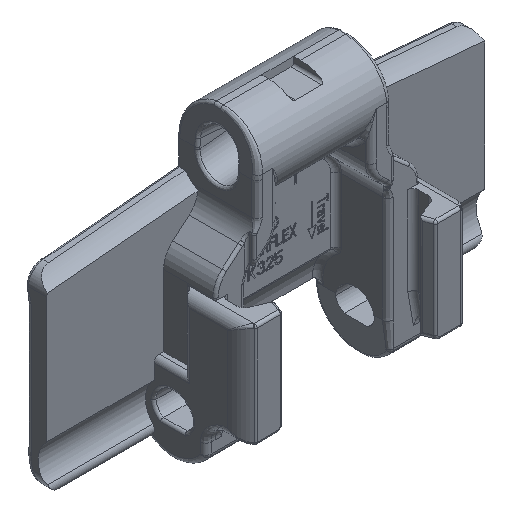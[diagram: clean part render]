
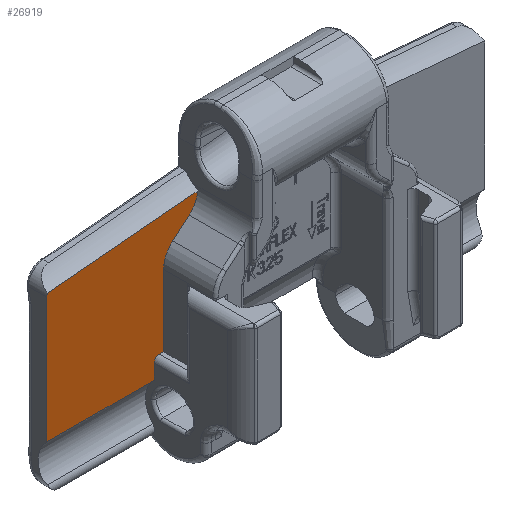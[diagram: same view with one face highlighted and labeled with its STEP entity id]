
A CAD part, isometric view. The second image highlights one B-rep face of the part: STEP entity #26919.
In plain terms, the highlighted planar face has unit normal (0, -1, 0).
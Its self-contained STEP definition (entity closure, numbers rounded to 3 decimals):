
#498=DIRECTION('',(0.,0.,-1.));
#499=VECTOR('',#498,2.741);
#500=CARTESIAN_POINT('',(-21.,3.521,-12.55));
#501=LINE('',#500,#499);
#1107=CARTESIAN_POINT('',(-38.15,3.521,8.301));
#1108=DIRECTION('',(0.,-1.,0.));
#1109=DIRECTION('',(-0.978,0.,0.208));
#1110=AXIS2_PLACEMENT_3D('',#1107,#1108,#1109);
#1112=DIRECTION('',(0.996,0.,0.087));
#1113=VECTOR('',#1112,28.451);
#1114=CARTESIAN_POINT('',(-41.084,3.521,8.925));
#1115=LINE('',#1114,#1113);
#8403=CARTESIAN_POINT('',(-17.7,3.521,12.05));
#8404=DIRECTION('',(0.,1.,0.));
#8405=DIRECTION('',(0.992,0.,-0.129));
#8406=AXIS2_PLACEMENT_3D('',#8403,#8404,#8405);
#8622=DIRECTION('',(0.757,0.,0.654));
#8623=VECTOR('',#8622,4.011);
#8624=CARTESIAN_POINT('',(-17.468,3.521,5.644));
#8625=LINE('',#8624,#8623);
#8635=CARTESIAN_POINT('',(-14.2,3.521,1.86));
#8636=DIRECTION('',(0.,1.,0.));
#8637=DIRECTION('',(-1.,0.,0.));
#8638=AXIS2_PLACEMENT_3D('',#8635,#8636,#8637);
#8666=DIRECTION('',(0.,0.,1.));
#8667=VECTOR('',#8666,13.41);
#8668=CARTESIAN_POINT('',(-19.2,3.521,-11.55));
#8669=LINE('',#8668,#8667);
#9173=CARTESIAN_POINT('',(-20.,3.521,-12.55));
#9174=DIRECTION('',(0.,1.,0.));
#9175=DIRECTION('',(-1.,0.,0.));
#9176=AXIS2_PLACEMENT_3D('',#9173,#9174,#9175);
#9186=DIRECTION('',(-1.,0.,0.));
#9187=VECTOR('',#9186,0.8);
#9188=CARTESIAN_POINT('',(-19.2,3.521,-11.55));
#9189=LINE('',#9188,#9187);
#9223=CARTESIAN_POINT('',(-41.084,3.521,8.925));
#9724=DIRECTION('',(0.,0.,-1.));
#9725=VECTOR('',#9724,23.592);
#9726=CARTESIAN_POINT('',(-41.15,3.521,8.301));
#9727=LINE('',#9726,#9725);
#10044=DIRECTION('',(-1.,0.,0.));
#10045=VECTOR('',#10044,20.15);
#10046=CARTESIAN_POINT('',(-21.,3.521,-15.291));
#10047=LINE('',#10046,#10045);
#20563=CARTESIAN_POINT('',(-19.2,3.521,-11.55));
#20564=CARTESIAN_POINT('',(-19.2,3.521,1.86));
#20565=VERTEX_POINT('',#20563);
#20566=VERTEX_POINT('',#20564);
#20567=CARTESIAN_POINT('',(-17.468,3.521,
5.644));
#20568=VERTEX_POINT('',#20567);
#20569=CARTESIAN_POINT('',(-14.432,3.521,
8.266));
#20570=VERTEX_POINT('',#20569);
#20571=CARTESIAN_POINT('',(-12.742,3.521,
11.405));
#20572=VERTEX_POINT('',#20571);
#20576=CARTESIAN_POINT('',(-21.,3.521,-15.291));
#20578=VERTEX_POINT('',#20576);
#20581=CARTESIAN_POINT('',(-41.15,3.521,-15.291));
#20582=VERTEX_POINT('',#20581);
#20590=CARTESIAN_POINT('',(-20.,3.521,-11.55));
#20591=VERTEX_POINT('',#20590);
#20594=CARTESIAN_POINT('',(-21.,3.521,-12.55));
#20595=VERTEX_POINT('',#20594);
#20663=VERTEX_POINT('',#9223);
#20803=CARTESIAN_POINT('',(-41.15,3.521,8.301));
#20804=VERTEX_POINT('',#20803);
#26891=CARTESIAN_POINT('',(0.,3.521,14.65));
#26892=DIRECTION('',(0.,-1.,0.));
#26893=DIRECTION('',(0.,0.,-1.));
#26894=AXIS2_PLACEMENT_3D('',#26891,#26892,#26893);
#26895=PLANE('',#26894);
#26897=ORIENTED_EDGE('',*,*,#26896,.T.);
#26899=ORIENTED_EDGE('',*,*,#26898,.F.);
#26900=ORIENTED_EDGE('',*,*,#26600,.T.);
#26902=ORIENTED_EDGE('',*,*,#26901,.T.);
#26904=ORIENTED_EDGE('',*,*,#26903,.F.);
#26906=ORIENTED_EDGE('',*,*,#26905,.F.);
#26908=ORIENTED_EDGE('',*,*,#26907,.T.);
#26910=ORIENTED_EDGE('',*,*,#26909,.T.);
#26912=ORIENTED_EDGE('',*,*,#26911,.F.);
#26914=ORIENTED_EDGE('',*,*,#26913,.F.);
#26916=ORIENTED_EDGE('',*,*,#26915,.F.);
#26917=EDGE_LOOP('',(#26897,#26899,#26900,#26902,#26904,#26906,#26908,#26910,
#26912,#26914,#26916));
#26918=FACE_OUTER_BOUND('',#26917,.F.);
#1111=CIRCLE('',#1110,3.);
#8407=CIRCLE('',#8406,5.);
#8639=CIRCLE('',#8638,5.);
#9177=CIRCLE('',#9176,1.);
#26600=EDGE_CURVE('',#20595,#20578,#501,.T.);
#26896=EDGE_CURVE('',#20565,#20591,#9189,.T.);
#26898=EDGE_CURVE('',#20595,#20591,#9177,.T.);
#26901=EDGE_CURVE('',#20578,#20582,#10047,.T.);
#26903=EDGE_CURVE('',#20804,#20582,#9727,.T.);
#26905=EDGE_CURVE('',#20663,#20804,#1111,.T.);
#26907=EDGE_CURVE('',#20663,#20572,#1115,.T.);
#26909=EDGE_CURVE('',#20572,#20570,#8407,.T.);
#26911=EDGE_CURVE('',#20568,#20570,#8625,.T.);
#26913=EDGE_CURVE('',#20566,#20568,#8639,.T.);
#26915=EDGE_CURVE('',#20565,#20566,#8669,.T.);
#26919=ADVANCED_FACE('',(#26918),#26895,.T.);
